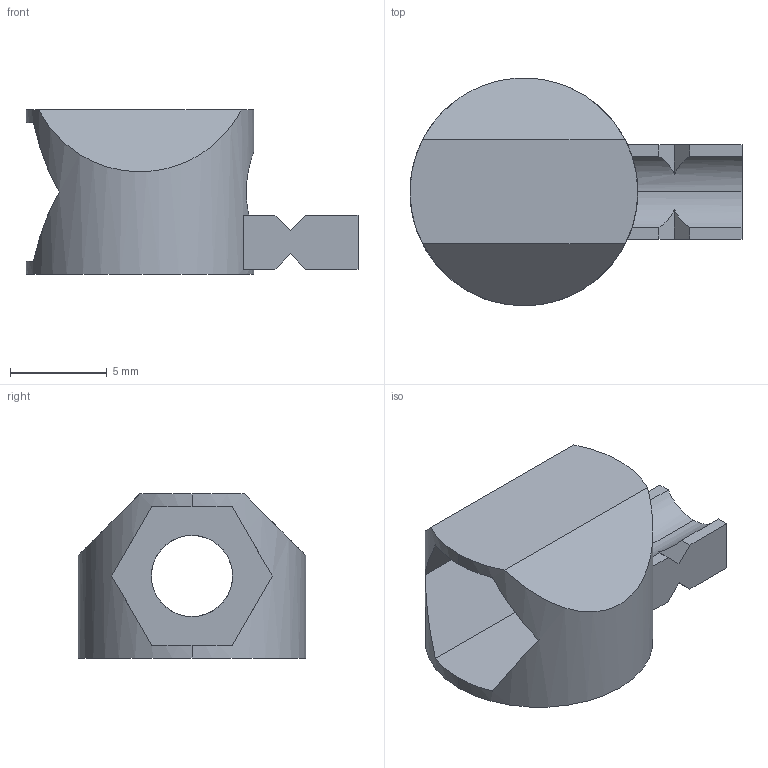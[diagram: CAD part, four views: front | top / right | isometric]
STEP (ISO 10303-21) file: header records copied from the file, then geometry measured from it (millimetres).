
FILE_DESCRIPTION(('STEP AP214'),'1');
FILE_NAME('C:/TPO v2/SharedFS/Outgoing/fath_099a0520.stp','2016-06-29T08:49:04',('TraceParts'),('TraceParts S.A.'),'Spatial InterOp 3D',' ',' ');
FILE_SCHEMA(('automotive_design'));
Length unit declared in the file: millimetre
Products named in the file (1): Kerbe
Bounding box: 17.2 x 11.8 x 8.5 mm (x, y, z)
Volume: 553.5 mm3; surface area: 782.7 mm2
Topology: 1 solids, 1 shells, 32 faces, 90 edges, 59 vertices
Faces by surface type: plane 26, cylinder 6
Entity records: 1385 total; most frequent: CARTESIAN_POINT 292, ORIENTED_EDGE 180, DIRECTION 160, EDGE_CURVE 90, VERTEX_POINT 59, LINE 58, VECTOR 58, AXIS2_PLACEMENT_3D 51
